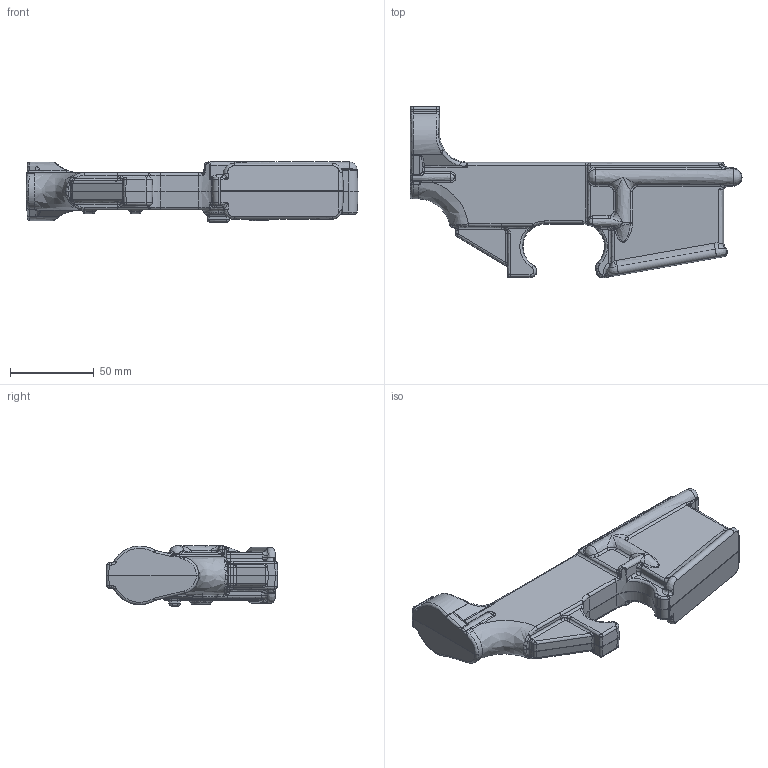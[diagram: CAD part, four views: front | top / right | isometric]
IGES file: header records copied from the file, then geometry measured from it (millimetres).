
Global section: file name: J62510 LOWER RECEIVER FORGING; native system: Autodesk Inventor 2015; preprocessor: unknown; author: Nap; date: 20150306.123129; units: millimetre
Bounding box: 198.64 x 102.69 x 36.15 mm (x, y, z)
Volume: 251949.9 mm3; surface area: 35406.5 mm2
Topology: 1 solids, 1 shells, 573 faces, 1331 edges, 737 vertices
Faces by surface type: bspline 573
